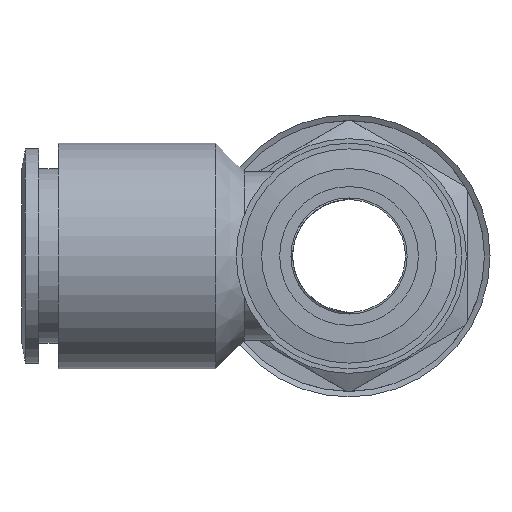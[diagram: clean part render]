
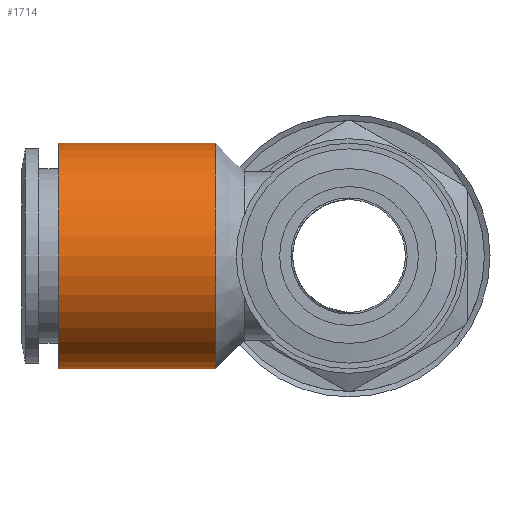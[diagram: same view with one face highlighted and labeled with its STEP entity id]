
A CAD part, left-side view. The second image highlights one B-rep face of the part: STEP entity #1714.
In plain terms, the highlighted cylindrical face has radius 10 mm (diameter 20 mm), a full revolution.
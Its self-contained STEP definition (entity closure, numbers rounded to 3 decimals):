
#1680=CARTESIAN_POINT('',(-10.0,11.8,0.0));
#1681=VERTEX_POINT('',#1680);
#1682=CARTESIAN_POINT('',(0.0,11.8,0.0));
#1683=DIRECTION('',(0.0,1.0,0.0));
#1684=DIRECTION('',(-1.0,0.0,0.0));
#1685=AXIS2_PLACEMENT_3D('',#1682,#1683,#1684);
#1686=CIRCLE('',#1685,10.0);
#1687=EDGE_CURVE('',#1681,#1681,#1686,.T.);
#1695=CARTESIAN_POINT('',(0.0,18.8,0.0));
#1696=DIRECTION('',(0.0,1.0,0.0));
#1697=DIRECTION('',(-1.0,0.0,0.0));
#1698=AXIS2_PLACEMENT_3D('',#1695,#1696,#1697);
#1699=CYLINDRICAL_SURFACE('',#1698,10.0);
#1700=CARTESIAN_POINT('',(-10.0,25.8,0.0));
#1701=VERTEX_POINT('',#1700);
#1702=CARTESIAN_POINT('',(0.0,25.8,0.0));
#1703=DIRECTION('',(0.0,1.0,0.0));
#1704=DIRECTION('',(-1.0,0.0,0.0));
#1705=AXIS2_PLACEMENT_3D('',#1702,#1703,#1704);
#1706=CIRCLE('',#1705,10.0);
#1707=EDGE_CURVE('',#1701,#1701,#1706,.T.);
#1708=ORIENTED_EDGE('',*,*,#1707,.F.);
#1709=EDGE_LOOP('',(#1708));
#1710=FACE_OUTER_BOUND('',#1709,.T.);
#1711=ORIENTED_EDGE('',*,*,#1687,.T.);
#1712=EDGE_LOOP('',(#1711));
#1713=FACE_BOUND('',#1712,.T.);
#1714=ADVANCED_FACE('',(#1710,#1713),#1699,.T.);
